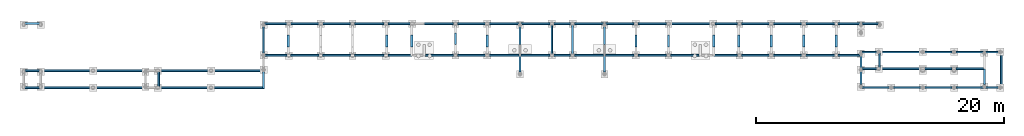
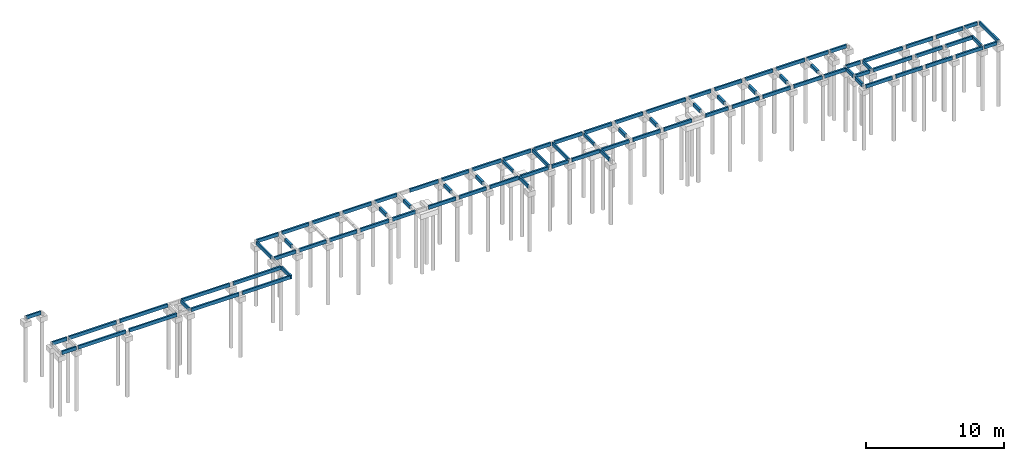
# One storey, part 4 of 6: 90 beams.
"""IFC4 building model written with IfcOpenShell, lengths in centimetres."""

from ifc_helpers import new_model, si_unit, derived_unit, frame, origin_with_axes, origin_2d_with_axis, place, context, project, spatial, rectangle, extrude, material, element, save


model = new_model("IFC4")

# Units and contexts
model_context = context("Model", 3, precision=1e-05, world=origin_with_axes(), identifier="Body")
ifc_project = project(units=[si_unit("LENGTHUNIT", "METRE", prefix="CENTI"), si_unit("VOLUMEUNIT", "CUBIC_METRE"), si_unit("AREAUNIT", "SQUARE_METRE"), si_unit("POWERUNIT", "WATT"), si_unit("LUMINOUSFLUXUNIT", "LUMEN"), si_unit("ELECTRICCURRENTUNIT", "AMPERE"), si_unit("PRESSUREUNIT", "PASCAL", prefix="KILO"), si_unit("MASSUNIT", "GRAM", prefix="KILO"), si_unit("PLANEANGLEUNIT", "RADIAN"), derived_unit("VOLUMETRICFLOWRATEUNIT", [(si_unit("LENGTHUNIT", "METRE"), 3), (si_unit("TIMEUNIT", "SECOND"), -1)])], contexts=[model_context])

# Site, building, storey
site_placement = place(None, origin_with_axes())
site = spatial("IfcSite", under=ifc_project, at=site_placement)
building_placement = place(site_placement, frame((0.0, 0.0, -170.0)))
building = spatial("IfcBuilding", under=site, at=building_placement)
storey_placement = place(building_placement, origin_with_axes())
storey = spatial("IfcBuildingStorey", under=building, at=storey_placement, Name="Baldrame", CompositionType="ELEMENT", Elevation=-170.0)

# Beams
ifc_material = material(Name="Concreto")
beam_1_placement = place(storey_placement, frame((-1856.0, 386.5, 0.0), z_axis=(0.0, 0.0, 1.0), x_axis=(1.0, 0.0, 0.0)))
element("IfcBeam", 1, at=beam_1_placement, inside=storey, material=ifc_material, Name="V1", context=model_context, shape_type="SolidModel", body=[
    extrude(rectangle(XDim=14.0, YDim=30.0, at=origin_2d_with_axis()), frame((-61.5, 0.0, -15.0), z_axis=(1.0, 0.0, 0.0), x_axis=(0.0, -1.0, 0.0)), (0.0, 0.0, 1.0), 123.0),
])
beam_2_placement = place(storey_placement, frame((4887.62, 157.5, 0.0), z_axis=(0.0, 0.0, 1.0), x_axis=(1.0, 0.0, 0.0)))
element("IfcBeam", 2, at=beam_2_placement, inside=storey, material=ifc_material, Name="V10", context=model_context, shape_type="SolidModel", body=[
    extrude(rectangle(XDim=14.0, YDim=30.0, at=origin_2d_with_axis()), frame((-60.5, 0.0, -15.0), z_axis=(1.0, 0.0, 0.0), x_axis=(0.0, 1.0, 0.0)), (0.0, 0.0, 1.0), 121.0),
])
beam_3_placement = place(storey_placement, frame((5696.87, 157.5, 0.0), z_axis=(0.0, 0.0, 1.0), x_axis=(1.0, 0.0, 0.0)))
element("IfcBeam", 3, at=beam_3_placement, inside=storey, material=ifc_material, Name="V11", context=model_context, shape_type="SolidModel", body=[
    extrude(rectangle(XDim=14.0, YDim=30.0, at=origin_2d_with_axis()), frame((-111.25, 0.0, -15.0), z_axis=(1.0, 0.0, 0.0), x_axis=(0.0, 1.0, 0.0)), (0.0, 0.0, 1.0), 222.5),
])
beam_4_placement = place(storey_placement, frame((5140.62, 157.5, 0.0), z_axis=(0.0, 0.0, 1.0), x_axis=(1.0, 0.0, 0.0)))
element("IfcBeam", 4, at=beam_4_placement, inside=storey, material=ifc_material, Name="V11", context=model_context, shape_type="SolidModel", body=[
    extrude(rectangle(XDim=14.0, YDim=30.0, at=origin_2d_with_axis()), frame((-162.5, 0.0, -15.0), z_axis=(1.0, 0.0, 0.0), x_axis=(0.0, 1.0, 0.0)), (0.0, 0.0, 1.0), 325.0),
])
beam_5_placement = place(storey_placement, frame((5444.37, 157.5, 0.0), z_axis=(0.0, 0.0, 1.0), x_axis=(1.0, 0.0, 0.0)))
element("IfcBeam", 5, at=beam_5_placement, inside=storey, material=ifc_material, Name="V11", context=model_context, shape_type="SolidModel", body=[
    extrude(rectangle(XDim=14.0, YDim=30.0, at=origin_2d_with_axis()), frame((-111.25, 0.0, -15.0), z_axis=(1.0, 0.0, 0.0), x_axis=(0.0, 1.0, 0.0)), (0.0, 0.0, 1.0), 222.5),
])
beam_6_placement = place(storey_placement, frame((5875.12, 157.5, 0.0), z_axis=(0.0, 0.0, 1.0), x_axis=(1.0, 0.0, 0.0)))
element("IfcBeam", 6, at=beam_6_placement, inside=storey, material=ifc_material, Name="V11", context=model_context, shape_type="SolidModel", body=[
    extrude(rectangle(XDim=14.0, YDim=30.0, at=origin_2d_with_axis()), frame((-53.0, 0.0, -15.0), z_axis=(1.0, 0.0, 0.0), x_axis=(0.0, 1.0, 0.0)), (0.0, 0.0, 1.0), 106.0),
])
beam_7_placement = place(storey_placement, frame((-199.75, 7.0, 0.0), z_axis=(0.0, 0.0, 1.0), x_axis=(1.0, 0.0, 0.0)))
element("IfcBeam", 7, at=beam_7_placement, inside=storey, material=ifc_material, Name="V12", context=model_context, shape_type="SolidModel", body=[
    extrude(rectangle(XDim=14.0, YDim=30.0, at=origin_2d_with_axis()), frame((-200.25, 0.0, -15.0), z_axis=(1.0, 0.0, 0.0), x_axis=(0.0, -1.0, 0.0)), (0.0, 0.0, 1.0), 400.5),
])
beam_8_placement = place(storey_placement, frame((-1150.5, 7.0, 0.0), z_axis=(0.0, 0.0, 1.0), x_axis=(1.0, 0.0, 0.0)))
element("IfcBeam", 8, at=beam_8_placement, inside=storey, material=ifc_material, Name="V12", context=model_context, shape_type="SolidModel", body=[
    extrude(rectangle(XDim=14.0, YDim=30.0, at=origin_2d_with_axis()), frame((-200.0, 0.0, -15.0), z_axis=(1.0, 0.0, 0.0), x_axis=(0.0, -1.0, 0.0)), (0.0, 0.0, 1.0), 400.0),
])
beam_9_placement = place(storey_placement, frame((-1856.0, 7.0, 0.0), z_axis=(0.0, 0.0, 1.0), x_axis=(1.0, 0.0, 0.0)))
element("IfcBeam", 9, at=beam_9_placement, inside=storey, material=ifc_material, Name="V12", context=model_context, shape_type="SolidModel", body=[
    extrude(rectangle(XDim=14.0, YDim=30.0, at=origin_2d_with_axis()), frame((-61.5, 0.0, -15.0), z_axis=(1.0, 0.0, 0.0), x_axis=(0.0, -1.0, 0.0)), (0.0, 0.0, 1.0), 123.0),
])
beam_10_placement = place(storey_placement, frame((-630.25, 7.0, 0.0), z_axis=(0.0, 0.0, 1.0), x_axis=(1.0, 0.0, 0.0)))
element("IfcBeam", 10, at=beam_10_placement, inside=storey, material=ifc_material, Name="V12", context=model_context, shape_type="SolidModel", body=[
    extrude(rectangle(XDim=14.0, YDim=30.0, at=origin_2d_with_axis()), frame((-200.25, 0.0, -15.0), z_axis=(1.0, 0.0, 0.0), x_axis=(0.0, -1.0, 0.0)), (0.0, 0.0, 1.0), 400.5),
])
beam_11_placement = place(storey_placement, frame((-1580.5, 7.0, 0.0), z_axis=(0.0, 0.0, 1.0), x_axis=(1.0, 0.0, 0.0)))
element("IfcBeam", 11, at=beam_11_placement, inside=storey, material=ifc_material, Name="V12", context=model_context, shape_type="SolidModel", body=[
    extrude(rectangle(XDim=14.0, YDim=30.0, at=origin_2d_with_axis()), frame((-200.0, 0.0, -15.0), z_axis=(1.0, 0.0, 0.0), x_axis=(0.0, -1.0, 0.0)), (0.0, 0.0, 1.0), 400.0),
])
beam_12_placement = place(storey_placement, frame((5700.37, 21.5, 0.0), z_axis=(0.0, 0.0, 1.0), x_axis=(1.0, 0.0, 0.0)))
element("IfcBeam", 12, at=beam_12_placement, inside=storey, material=ifc_material, Name="V13", context=model_context, shape_type="SolidModel", body=[
    extrude(rectangle(XDim=14.0, YDim=30.0, at=origin_2d_with_axis()), frame((-114.75, 0.0, -15.0), z_axis=(1.0, 0.0, 0.0), x_axis=(0.0, 1.0, 0.0)), (0.0, 0.0, 1.0), 229.5),
])
beam_13_placement = place(storey_placement, frame((5444.37, 21.5, 0.0), z_axis=(0.0, 0.0, 1.0), x_axis=(1.0, 0.0, 0.0)))
element("IfcBeam", 13, at=beam_13_placement, inside=storey, material=ifc_material, Name="V13", context=model_context, shape_type="SolidModel", body=[
    extrude(rectangle(XDim=14.0, YDim=30.0, at=origin_2d_with_axis()), frame((-111.25, 0.0, -15.0), z_axis=(1.0, 0.0, 0.0), x_axis=(0.0, 1.0, 0.0)), (0.0, 0.0, 1.0), 222.5),
])
beam_14_placement = place(storey_placement, frame((5140.62, 21.5, 0.0), z_axis=(0.0, 0.0, 1.0), x_axis=(1.0, 0.0, 0.0)))
element("IfcBeam", 14, at=beam_14_placement, inside=storey, material=ifc_material, Name="V13", context=model_context, shape_type="SolidModel", body=[
    extrude(rectangle(XDim=14.0, YDim=30.0, at=origin_2d_with_axis()), frame((-162.5, 0.0, -15.0), z_axis=(1.0, 0.0, 0.0), x_axis=(0.0, 1.0, 0.0)), (0.0, 0.0, 1.0), 325.0),
])
beam_15_placement = place(storey_placement, frame((4887.62, 21.5, 0.0), z_axis=(0.0, 0.0, 1.0), x_axis=(1.0, 0.0, 0.0)))
element("IfcBeam", 15, at=beam_15_placement, inside=storey, material=ifc_material, Name="V13", context=model_context, shape_type="SolidModel", body=[
    extrude(rectangle(XDim=14.0, YDim=30.0, at=origin_2d_with_axis()), frame((-60.5, 0.0, -15.0), z_axis=(1.0, 0.0, 0.0), x_axis=(0.0, 1.0, 0.0)), (0.0, 0.0, 1.0), 121.0),
])
beam_16_placement = place(storey_placement, frame((-1580.625, -130.0, 0.0), z_axis=(0.0, 0.0, 1.0), x_axis=(1.0, 0.0, 0.0)))
element("IfcBeam", 16, at=beam_16_placement, inside=storey, material=ifc_material, Name="V14", context=model_context, shape_type="SolidModel", body=[
    extrude(rectangle(XDim=14.0, YDim=30.0, at=origin_2d_with_axis()), frame((-199.875, 0.0, -15.0), z_axis=(1.0, 0.0, 0.0), x_axis=(0.0, -1.0, 0.0)), (0.0, 0.0, 1.0), 399.75),
])
beam_17_placement = place(storey_placement, frame((-1856.0, -130.0, 0.0), z_axis=(0.0, 0.0, 1.0), x_axis=(1.0, 0.0, 0.0)))
element("IfcBeam", 17, at=beam_17_placement, inside=storey, material=ifc_material, Name="V14", context=model_context, shape_type="SolidModel", body=[
    extrude(rectangle(XDim=14.0, YDim=30.0, at=origin_2d_with_axis()), frame((-61.5, 0.0, -15.0), z_axis=(1.0, 0.0, 0.0), x_axis=(0.0, -1.0, 0.0)), (0.0, 0.0, 1.0), 123.0),
])
beam_18_placement = place(storey_placement, frame((-630.975, -130.0, 0.0), z_axis=(0.0, 0.0, 1.0), x_axis=(1.0, 0.0, 0.0)))
element("IfcBeam", 18, at=beam_18_placement, inside=storey, material=ifc_material, Name="V14", context=model_context, shape_type="SolidModel", body=[
    extrude(rectangle(XDim=14.0, YDim=30.0, at=origin_2d_with_axis()), frame((-199.525, 0.0, -15.0), z_axis=(1.0, 0.0, 0.0), x_axis=(0.0, -1.0, 0.0)), (0.0, 0.0, 1.0), 399.05),
])
beam_19_placement = place(storey_placement, frame((-1150.625, -130.0, 0.0), z_axis=(0.0, 0.0, 1.0), x_axis=(1.0, 0.0, 0.0)))
element("IfcBeam", 19, at=beam_19_placement, inside=storey, material=ifc_material, Name="V14", context=model_context, shape_type="SolidModel", body=[
    extrude(rectangle(XDim=14.0, YDim=30.0, at=origin_2d_with_axis()), frame((-200.125, 0.0, -15.0), z_axis=(1.0, 0.0, 0.0), x_axis=(0.0, -1.0, 0.0)), (0.0, 0.0, 1.0), 400.25),
])
beam_20_placement = place(storey_placement, frame((-200.475, -130.0, 0.0), z_axis=(0.0, 0.0, 1.0), x_axis=(1.0, 0.0, 0.0)))
element("IfcBeam", 20, at=beam_20_placement, inside=storey, material=ifc_material, Name="V14", context=model_context, shape_type="SolidModel", body=[
    extrude(rectangle(XDim=14.0, YDim=30.0, at=origin_2d_with_axis()), frame((-200.975, 0.0, -15.0), z_axis=(1.0, 0.0, 0.0), x_axis=(0.0, -1.0, 0.0)), (0.0, 0.0, 1.0), 401.95),
])
for number, where, z_axis, x_axis, name in (
    (21, (5444.37, -129.5, 0.0), (0.0, 0.0, 1.0), (1.0, 0.0, 0.0), "V15"),
    (22, (5696.87, -129.5, 0.0), (0.0, 0.0, 1.0), (1.0, 0.0, 0.0), "V15"),
):
    element("IfcBeam", number, at=place(storey_placement, frame(where, z_axis=z_axis, x_axis=x_axis)), inside=storey, material=ifc_material, Name=name, context=model_context, shape_type="SolidModel", body=[
        extrude(rectangle(XDim=14.0, YDim=30.0, at=origin_2d_with_axis()), frame((-111.25, 0.0, -15.0), z_axis=(1.0, 0.0, 0.0), x_axis=(0.0, 1.0, 0.0)), (0.0, 0.0, 1.0), 222.5),
    ])
for number, where, z_axis, x_axis, name in (
    (23, (5191.62, -129.5, 0.0), (0.0, 0.0, 1.0), (1.0, 0.0, 0.0), "V15"),
    (24, (4938.62, -129.5, 0.0), (0.0, 0.0, 1.0), (1.0, 0.0, 0.0), "V15"),
):
    element("IfcBeam", number, at=place(storey_placement, frame(where, z_axis=z_axis, x_axis=x_axis)), inside=storey, material=ifc_material, Name=name, context=model_context, shape_type="SolidModel", body=[
        extrude(rectangle(XDim=14.0, YDim=30.0, at=origin_2d_with_axis()), frame((-111.5, 0.0, -15.0), z_axis=(1.0, 0.0, 0.0), x_axis=(0.0, 1.0, 0.0)), (0.0, 0.0, 1.0), 223.0),
    ])
beam_21_placement = place(storey_placement, frame((5875.12, -129.5, 0.0), z_axis=(0.0, 0.0, 1.0), x_axis=(1.0, 0.0, 0.0)))
element("IfcBeam", 25, at=beam_21_placement, inside=storey, material=ifc_material, Name="V15", context=model_context, shape_type="SolidModel", body=[
    extrude(rectangle(XDim=14.0, YDim=30.0, at=origin_2d_with_axis()), frame((-53.0, 0.0, -15.0), z_axis=(1.0, 0.0, 0.0), x_axis=(0.0, 1.0, 0.0)), (0.0, 0.0, 1.0), 106.0),
])
beam_22_placement = place(storey_placement, frame((-837.5, -61.5, 0.0), z_axis=(0.0, 0.0, 1.0), x_axis=(1.0, 0.0, 0.0)))
element("IfcBeam", 26, at=beam_22_placement, inside=storey, material=ifc_material, Name="V19", context=model_context, shape_type="SolidModel", body=[
    extrude(rectangle(XDim=14.0, YDim=30.0, at=origin_2d_with_axis()), frame((0.0, -61.5, -15.0), z_axis=(0.0, 1.0, 0.0), x_axis=(-1.0, 0.0, 0.0)), (0.0, 0.0, 1.0), 123.0),
])
beam_23_placement = place(storey_placement, frame((105.5, 385.0, 0.0), z_axis=(0.0, 0.0, 1.0), x_axis=(1.0, 0.0, 0.0)))
element("IfcBeam", 27, at=beam_23_placement, inside=storey, material=ifc_material, Name="V2", context=model_context, shape_type="SolidModel", body=[
    extrude(rectangle(XDim=14.0, YDim=30.0, at=origin_2d_with_axis()), frame((-91.0, 0.0, -15.0), z_axis=(1.0, 0.0, 0.0), x_axis=(0.0, 1.0, 0.0)), (0.0, 0.0, 1.0), 182.0),
])
beam_24_placement = place(storey_placement, frame((1100.03, 385.0, 0.0), z_axis=(0.0, 0.0, 1.0), x_axis=(1.0, 0.0, 0.0)))
element("IfcBeam", 28, at=beam_24_placement, inside=storey, material=ifc_material, Name="V2", context=model_context, shape_type="SolidModel", body=[
    extrude(rectangle(XDim=14.0, YDim=30.0, at=origin_2d_with_axis()), frame((-91.5, 0.0, -15.0), z_axis=(1.0, 0.0, 0.0), x_axis=(0.0, 1.0, 0.0)), (0.0, 0.0, 1.0), 183.0),
])
beam_25_placement = place(storey_placement, frame((858.835, 385.0, 0.0), z_axis=(0.0, 0.0, 1.0), x_axis=(1.0, 0.0, 0.0)))
element("IfcBeam", 29, at=beam_25_placement, inside=storey, material=ifc_material, Name="V2", context=model_context, shape_type="SolidModel", body=[
    extrude(rectangle(XDim=14.0, YDim=30.0, at=origin_2d_with_axis()), frame((-119.695, 0.0, -15.0), z_axis=(1.0, 0.0, 0.0), x_axis=(0.0, 1.0, 0.0)), (0.0, 0.0, 1.0), 239.39),
])
for number, where, z_axis, x_axis, name in (
    (30, (595.98, 385.0, 0.0), (0.0, 0.0, 1.0), (1.0, 0.0, 0.0), "V2"),
    (31, (339.66, 385.0, 0.0), (0.0, 0.0, 1.0), (1.0, 0.0, 0.0), "V2"),
):
    element("IfcBeam", number, at=place(storey_placement, frame(where, z_axis=z_axis, x_axis=x_axis)), inside=storey, material=ifc_material, Name=name, context=model_context, shape_type="SolidModel", body=[
        extrude(rectangle(XDim=14.0, YDim=30.0, at=origin_2d_with_axis()), frame((-113.16, 0.0, -15.0), z_axis=(1.0, 0.0, 0.0), x_axis=(0.0, 1.0, 0.0)), (0.0, 0.0, 1.0), 226.32),
    ])
beam_26_placement = place(storey_placement, frame((7.5, -68.5, 0.0), z_axis=(0.0, 0.0, 1.0), x_axis=(1.0, 0.0, 0.0)))
element("IfcBeam", 32, at=beam_26_placement, inside=storey, material=ifc_material, Name="V20", context=model_context, shape_type="SolidModel", body=[
    extrude(rectangle(XDim=14.0, YDim=30.0, at=origin_2d_with_axis()), frame((0.0, -68.5, -15.0), z_axis=(0.0, 1.0, 0.0), x_axis=(1.0, 0.0, 0.0)), (0.0, 0.0, 1.0), 137.0),
])
beam_27_placement = place(storey_placement, frame((7.5, 254.0, 0.0), z_axis=(0.0, 0.0, 1.0), x_axis=(1.0, 0.0, 0.0)))
element("IfcBeam", 33, at=beam_27_placement, inside=storey, material=ifc_material, Name="V20", context=model_context, shape_type="SolidModel", body=[
    extrude(rectangle(XDim=14.0, YDim=30.0, at=origin_2d_with_axis()), frame((0.0, -108.0, -15.0), z_axis=(0.0, 1.0, 0.0), x_axis=(-1.0, 0.0, 0.0)), (0.0, 0.0, 1.0), 216.0),
])
for number, where, z_axis, x_axis, name in (
    (34, (206.0, 245.5, 0.0), (0.0, 0.0, 1.0), (1.0, 0.0, 0.0), "V21"),
    (35, (999.03, 245.5, 0.0), (0.0, 0.0, 1.0), (1.0, 0.0, 0.0), "V24"),
    (36, (1201.03, 245.5, 0.0), (0.0, 0.0, 1.0), (1.0, 0.0, 0.0), "V25"),
):
    element("IfcBeam", number, at=place(storey_placement, frame(where, z_axis=z_axis, x_axis=x_axis)), inside=storey, material=ifc_material, Name=name, context=model_context, shape_type="SolidModel", body=[
        extrude(rectangle(XDim=19.0, YDim=30.0, at=origin_2d_with_axis()), frame((0.0, -47.5, -15.0), z_axis=(0.0, 1.0, 0.0), x_axis=(1.0, 0.0, 0.0)), (0.0, 0.0, 1.0), 95.0),
    ])
beam_28_placement = place(storey_placement, frame((1553.92, 264.5, 0.0), z_axis=(0.0, 0.0, 1.0), x_axis=(1.0, 0.0, 0.0)))
element("IfcBeam", 37, at=beam_28_placement, inside=storey, material=ifc_material, Name="V26", context=model_context, shape_type="SolidModel", body=[
    extrude(rectangle(XDim=19.0, YDim=30.0, at=origin_2d_with_axis()), frame((0.0, 47.5, -15.0), z_axis=(0.0, -1.0, 0.0), x_axis=(1.0, 0.0, 0.0)), (0.0, 0.0, 1.0), 95.0),
])
beam_29_placement = place(storey_placement, frame((1810.24, 245.5, 0.0), z_axis=(0.0, 0.0, 1.0), x_axis=(1.0, 0.0, 0.0)))
element("IfcBeam", 38, at=beam_29_placement, inside=storey, material=ifc_material, Name="V27", context=model_context, shape_type="SolidModel", body=[
    extrude(rectangle(XDim=19.0, YDim=30.0, at=origin_2d_with_axis()), frame((0.0, -47.5, -15.0), z_axis=(0.0, 1.0, 0.0), x_axis=(1.0, 0.0, 0.0)), (0.0, 0.0, 1.0), 95.0),
])
beam_30_placement = place(storey_placement, frame((2073.56, 289.5, 0.0), z_axis=(0.0, 0.0, 1.0), x_axis=(1.0, 0.0, 0.0)))
element("IfcBeam", 39, at=beam_30_placement, inside=storey, material=ifc_material, Name="V28", context=model_context, shape_type="SolidModel", body=[
    extrude(rectangle(XDim=14.0, YDim=30.0, at=origin_2d_with_axis()), frame((0.0, -72.5, -15.0), z_axis=(0.0, 1.0, 0.0), x_axis=(1.0, 0.0, 0.0)), (0.0, 0.0, 1.0), 145.0),
])
beam_31_placement = place(storey_placement, frame((2073.56, 59.25, 0.0), z_axis=(0.0, 0.0, 1.0), x_axis=(1.0, 0.0, 0.0)))
element("IfcBeam", 40, at=beam_31_placement, inside=storey, material=ifc_material, Name="V28", context=model_context, shape_type="SolidModel", body=[
    extrude(rectangle(XDim=14.0, YDim=30.0, at=origin_2d_with_axis()), frame((0.0, -64.75, -15.0), z_axis=(0.0, 1.0, 0.0), x_axis=(1.0, 0.0, 0.0)), (0.0, 0.0, 1.0), 129.5),
])
beam_32_placement = place(storey_placement, frame((2330.56, 258.0, 0.0), z_axis=(0.0, 0.0, 1.0), x_axis=(1.0, 0.0, 0.0)))
element("IfcBeam", 41, at=beam_32_placement, inside=storey, material=ifc_material, Name="V29", context=model_context, shape_type="SolidModel", body=[
    extrude(rectangle(XDim=14.0, YDim=30.0, at=origin_2d_with_axis()), frame((0.0, -120.0, -15.0), z_axis=(0.0, 1.0, 0.0), x_axis=(1.0, 0.0, 0.0)), (0.0, 0.0, 1.0), 240.0),
])
beam_33_placement = place(storey_placement, frame((2630.06, 385.0, 0.0), z_axis=(0.0, 0.0, 1.0), x_axis=(1.0, 0.0, 0.0)))
element("IfcBeam", 42, at=beam_33_placement, inside=storey, material=ifc_material, Name="V3", context=model_context, shape_type="SolidModel", body=[
    extrude(rectangle(XDim=14.0, YDim=30.0, at=origin_2d_with_axis()), frame((-117.5, 0.0, -15.0), z_axis=(1.0, 0.0, 0.0), x_axis=(0.0, 1.0, 0.0)), (0.0, 0.0, 1.0), 235.0),
])
beam_34_placement = place(storey_placement, frame((1419.74, 385.0, 0.0), z_axis=(0.0, 0.0, 1.0), x_axis=(1.0, 0.0, 0.0)))
element("IfcBeam", 43, at=beam_34_placement, inside=storey, material=ifc_material, Name="V3", context=model_context, shape_type="SolidModel", body=[
    extrude(rectangle(XDim=14.0, YDim=30.0, at=origin_2d_with_axis()), frame((-119.18, 0.0, -15.0), z_axis=(1.0, 0.0, 0.0), x_axis=(0.0, 1.0, 0.0)), (0.0, 0.0, 1.0), 238.36),
])
beam_35_placement = place(storey_placement, frame((2877.285, 385.0, 0.0), z_axis=(0.0, 0.0, 1.0), x_axis=(1.0, 0.0, 0.0)))
element("IfcBeam", 44, at=beam_35_placement, inside=storey, material=ifc_material, Name="V3", context=model_context, shape_type="SolidModel", body=[
    extrude(rectangle(XDim=14.0, YDim=30.0, at=origin_2d_with_axis()), frame((-115.725, 0.0, -15.0), z_axis=(1.0, 0.0, 0.0), x_axis=(0.0, 1.0, 0.0)), (0.0, 0.0, 1.0), 231.45),
])
beam_36_placement = place(storey_placement, frame((1682.08, 385.0, 0.0), z_axis=(0.0, 0.0, 1.0), x_axis=(1.0, 0.0, 0.0)))
element("IfcBeam", 45, at=beam_36_placement, inside=storey, material=ifc_material, Name="V3", context=model_context, shape_type="SolidModel", body=[
    extrude(rectangle(XDim=14.0, YDim=30.0, at=origin_2d_with_axis()), frame((-113.16, 0.0, -15.0), z_axis=(1.0, 0.0, 0.0), x_axis=(0.0, 1.0, 0.0)), (0.0, 0.0, 1.0), 226.32),
])
beam_37_placement = place(storey_placement, frame((1945.9, 385.0, 0.0), z_axis=(0.0, 0.0, 1.0), x_axis=(1.0, 0.0, 0.0)))
element("IfcBeam", 46, at=beam_37_placement, inside=storey, material=ifc_material, Name="V3", context=model_context, shape_type="SolidModel", body=[
    extrude(rectangle(XDim=14.0, YDim=30.0, at=origin_2d_with_axis()), frame((-120.66, 0.0, -15.0), z_axis=(1.0, 0.0, 0.0), x_axis=(0.0, 1.0, 0.0)), (0.0, 0.0, 1.0), 241.32),
])
beam_38_placement = place(storey_placement, frame((2198.06, 385.0, 0.0), z_axis=(0.0, 0.0, 1.0), x_axis=(1.0, 0.0, 0.0)))
element("IfcBeam", 47, at=beam_38_placement, inside=storey, material=ifc_material, Name="V3", context=model_context, shape_type="SolidModel", body=[
    extrude(rectangle(XDim=14.0, YDim=30.0, at=origin_2d_with_axis()), frame((-117.5, 0.0, -15.0), z_axis=(1.0, 0.0, 0.0), x_axis=(0.0, 1.0, 0.0)), (0.0, 0.0, 1.0), 235.0),
])
beam_39_placement = place(storey_placement, frame((2414.06, 385.0, 0.0), z_axis=(0.0, 0.0, 1.0), x_axis=(1.0, 0.0, 0.0)))
element("IfcBeam", 48, at=beam_39_placement, inside=storey, material=ifc_material, Name="V3", context=model_context, shape_type="SolidModel", body=[
    extrude(rectangle(XDim=14.0, YDim=30.0, at=origin_2d_with_axis()), frame((-68.5, 0.0, -15.0), z_axis=(1.0, 0.0, 0.0), x_axis=(0.0, 1.0, 0.0)), (0.0, 0.0, 1.0), 137.0),
])
beam_40_placement = place(storey_placement, frame((3138.98, 385.0, 0.0), z_axis=(0.0, 0.0, 1.0), x_axis=(1.0, 0.0, 0.0)))
element("IfcBeam", 49, at=beam_40_placement, inside=storey, material=ifc_material, Name="V3", context=model_context, shape_type="SolidModel", body=[
    extrude(rectangle(XDim=14.0, YDim=30.0, at=origin_2d_with_axis()), frame((-115.97, 0.0, -15.0), z_axis=(1.0, 0.0, 0.0), x_axis=(0.0, 1.0, 0.0)), (0.0, 0.0, 1.0), 231.94),
])
beam_41_placement = place(storey_placement, frame((2497.56, 258.0, 0.0), z_axis=(0.0, 0.0, 1.0), x_axis=(1.0, 0.0, 0.0)))
element("IfcBeam", 50, at=beam_41_placement, inside=storey, material=ifc_material, Name="V30", context=model_context, shape_type="SolidModel", body=[
    extrude(rectangle(XDim=14.0, YDim=30.0, at=origin_2d_with_axis()), frame((0.0, -120.0, -15.0), z_axis=(0.0, 1.0, 0.0), x_axis=(1.0, 0.0, 0.0)), (0.0, 0.0, 1.0), 240.0),
])
beam_42_placement = place(storey_placement, frame((2754.56, 59.25, 0.0), z_axis=(0.0, 0.0, 1.0), x_axis=(1.0, 0.0, 0.0)))
element("IfcBeam", 51, at=beam_42_placement, inside=storey, material=ifc_material, Name="V31", context=model_context, shape_type="SolidModel", body=[
    extrude(rectangle(XDim=14.0, YDim=30.0, at=origin_2d_with_axis()), frame((0.0, -64.75, -15.0), z_axis=(0.0, 1.0, 0.0), x_axis=(1.0, 0.0, 0.0)), (0.0, 0.0, 1.0), 129.5),
])
beam_43_placement = place(storey_placement, frame((2754.56, 289.5, 0.0), z_axis=(0.0, 0.0, 1.0), x_axis=(1.0, 0.0, 0.0)))
element("IfcBeam", 52, at=beam_43_placement, inside=storey, material=ifc_material, Name="V31", context=model_context, shape_type="SolidModel", body=[
    extrude(rectangle(XDim=14.0, YDim=30.0, at=origin_2d_with_axis()), frame((0.0, -72.5, -15.0), z_axis=(0.0, 1.0, 0.0), x_axis=(1.0, 0.0, 0.0)), (0.0, 0.0, 1.0), 145.0),
])
for number, where, z_axis, x_axis, name in (
    (53, (3008.01, 245.5, 0.0), (0.0, 0.0, 1.0), (1.0, 0.0, 0.0), "V32"),
    (54, (3269.95, 245.5, 0.0), (0.0, 0.0, 1.0), (1.0, 0.0, 0.0), "V33"),
    (55, (3634.59, 245.5, 0.0), (0.0, 0.0, 1.0), (1.0, 0.0, 0.0), "V34"),
    (56, (3836.59, 245.5, 0.0), (0.0, 0.0, 1.0), (1.0, 0.0, 0.0), "V35"),
    (57, (4098.54, 245.5, 0.0), (0.0, 0.0, 1.0), (1.0, 0.0, 0.0), "V36"),
    (58, (4360.17, 245.5, 0.0), (0.0, 0.0, 1.0), (1.0, 0.0, 0.0), "V37"),
    (59, (4622.12, 245.5, 0.0), (0.0, 0.0, 1.0), (1.0, 0.0, 0.0), "V38"),
):
    element("IfcBeam", number, at=place(storey_placement, frame(where, z_axis=z_axis, x_axis=x_axis)), inside=storey, material=ifc_material, Name=name, context=model_context, shape_type="SolidModel", body=[
        extrude(rectangle(XDim=19.0, YDim=30.0, at=origin_2d_with_axis()), frame((0.0, -47.5, -15.0), z_axis=(0.0, 1.0, 0.0), x_axis=(1.0, 0.0, 0.0)), (0.0, 0.0, 1.0), 95.0),
    ])
beam_44_placement = place(storey_placement, frame((4820.12, -53.5, 0.0), z_axis=(0.0, 0.0, 1.0), x_axis=(1.0, 0.0, 0.0)))
element("IfcBeam", 60, at=beam_44_placement, inside=storey, material=ifc_material, Name="V39", context=model_context, shape_type="SolidModel", body=[
    extrude(rectangle(XDim=14.0, YDim=30.0, at=origin_2d_with_axis()), frame((0.0, -53.0, -15.0), z_axis=(0.0, 1.0, 0.0), x_axis=(1.0, 0.0, 0.0)), (0.0, 0.0, 1.0), 106.0),
])
beam_45_placement = place(storey_placement, frame((4820.12, 76.25, 0.0), z_axis=(0.0, 0.0, 1.0), x_axis=(1.0, 0.0, 0.0)))
element("IfcBeam", 61, at=beam_45_placement, inside=storey, material=ifc_material, Name="V39", context=model_context, shape_type="SolidModel", body=[
    extrude(rectangle(XDim=14.0, YDim=30.0, at=origin_2d_with_axis()), frame((0.0, -47.75, -15.0), z_axis=(0.0, 1.0, 0.0), x_axis=(1.0, 0.0, 0.0)), (0.0, 0.0, 1.0), 95.5),
])
beam_46_placement = place(storey_placement, frame((4229.355, 385.0, 0.0), z_axis=(0.0, 0.0, 1.0), x_axis=(1.0, 0.0, 0.0)))
element("IfcBeam", 62, at=beam_46_placement, inside=storey, material=ifc_material, Name="V4", context=model_context, shape_type="SolidModel", body=[
    extrude(rectangle(XDim=14.0, YDim=30.0, at=origin_2d_with_axis()), frame((-115.815, 0.0, -15.0), z_axis=(1.0, 0.0, 0.0), x_axis=(0.0, 1.0, 0.0)), (0.0, 0.0, 1.0), 231.63),
])
beam_47_placement = place(storey_placement, frame((4493.895, 385.0, 0.0), z_axis=(0.0, 0.0, 1.0), x_axis=(1.0, 0.0, 0.0)))
element("IfcBeam", 63, at=beam_47_placement, inside=storey, material=ifc_material, Name="V4", context=model_context, shape_type="SolidModel", body=[
    extrude(rectangle(XDim=14.0, YDim=30.0, at=origin_2d_with_axis()), frame((-118.725, 0.0, -15.0), z_axis=(1.0, 0.0, 0.0), x_axis=(0.0, 1.0, 0.0)), (0.0, 0.0, 1.0), 237.45),
])
beam_48_placement = place(storey_placement, frame((3449.52, 385.0, 0.0), z_axis=(0.0, 0.0, 1.0), x_axis=(1.0, 0.0, 0.0)))
element("IfcBeam", 64, at=beam_48_placement, inside=storey, material=ifc_material, Name="V4", context=model_context, shape_type="SolidModel", body=[
    extrude(rectangle(XDim=14.0, YDim=30.0, at=origin_2d_with_axis()), frame((-164.57, 0.0, -15.0), z_axis=(1.0, 0.0, 0.0), x_axis=(0.0, 1.0, 0.0)), (0.0, 0.0, 1.0), 329.14),
])
beam_49_placement = place(storey_placement, frame((3735.59, 385.0, 0.0), z_axis=(0.0, 0.0, 1.0), x_axis=(1.0, 0.0, 0.0)))
element("IfcBeam", 65, at=beam_49_placement, inside=storey, material=ifc_material, Name="V4", context=model_context, shape_type="SolidModel", body=[
    extrude(rectangle(XDim=14.0, YDim=30.0, at=origin_2d_with_axis()), frame((-91.5, 0.0, -15.0), z_axis=(1.0, 0.0, 0.0), x_axis=(0.0, 1.0, 0.0)), (0.0, 0.0, 1.0), 183.0),
])
beam_50_placement = place(storey_placement, frame((3970.315, 385.0, 0.0), z_axis=(0.0, 0.0, 1.0), x_axis=(1.0, 0.0, 0.0)))
element("IfcBeam", 66, at=beam_50_placement, inside=storey, material=ifc_material, Name="V4", context=model_context, shape_type="SolidModel", body=[
    extrude(rectangle(XDim=14.0, YDim=30.0, at=origin_2d_with_axis()), frame((-113.225, 0.0, -15.0), z_axis=(1.0, 0.0, 0.0), x_axis=(0.0, 1.0, 0.0)), (0.0, 0.0, 1.0), 226.45),
])
beam_51_placement = place(storey_placement, frame((4722.37, 385.0, 0.0), z_axis=(0.0, 0.0, 1.0), x_axis=(1.0, 0.0, 0.0)))
element("IfcBeam", 67, at=beam_51_placement, inside=storey, material=ifc_material, Name="V4", context=model_context, shape_type="SolidModel", body=[
    extrude(rectangle(XDim=14.0, YDim=30.0, at=origin_2d_with_axis()), frame((-90.75, 0.0, -15.0), z_axis=(1.0, 0.0, 0.0), x_axis=(0.0, 1.0, 0.0)), (0.0, 0.0, 1.0), 181.5),
])
beam_52_placement = place(storey_placement, frame((4971.12, 89.5, 0.0), z_axis=(0.0, 0.0, 1.0), x_axis=(1.0, 0.0, 0.0)))
element("IfcBeam", 68, at=beam_52_placement, inside=storey, material=ifc_material, Name="V40", context=model_context, shape_type="SolidModel", body=[
    extrude(rectangle(XDim=14.0, YDim=30.0, at=origin_2d_with_axis()), frame((0.0, -61.0, -15.0), z_axis=(0.0, 1.0, 0.0), x_axis=(1.0, 0.0, 0.0)), (0.0, 0.0, 1.0), 122.0),
])
beam_53_placement = place(storey_placement, frame((5815.12, -42.5, 0.0), z_axis=(0.0, 0.0, 1.0), x_axis=(1.0, 0.0, 0.0)))
element("IfcBeam", 69, at=beam_53_placement, inside=storey, material=ifc_material, Name="V41", context=model_context, shape_type="SolidModel", body=[
    extrude(rectangle(XDim=14.0, YDim=30.0, at=origin_2d_with_axis()), frame((0.0, -64.0, -15.0), z_axis=(0.0, 1.0, 0.0), x_axis=(1.0, 0.0, 0.0)), (0.0, 0.0, 1.0), 128.0),
])
beam_54_placement = place(storey_placement, frame((5951.12, 14.0, 0.0), z_axis=(0.0, 0.0, 1.0), x_axis=(1.0, 0.0, 0.0)))
element("IfcBeam", 70, at=beam_54_placement, inside=storey, material=ifc_material, Name="V42", context=model_context, shape_type="SolidModel", body=[
    extrude(rectangle(XDim=14.0, YDim=30.0, at=origin_2d_with_axis()), frame((0.0, -136.5, -15.0), z_axis=(0.0, 1.0, 0.0), x_axis=(1.0, 0.0, 0.0)), (0.0, 0.0, 1.0), 273.0),
])
beam_55_placement = place(storey_placement, frame((4895.62, 385.0, 0.0), z_axis=(0.0, 0.0, 1.0), x_axis=(1.0, 0.0, 0.0)))
element("IfcBeam", 71, at=beam_55_placement, inside=storey, material=ifc_material, Name="V5", context=model_context, shape_type="SolidModel", body=[
    extrude(rectangle(XDim=14.0, YDim=30.0, at=origin_2d_with_axis()), frame((-68.5, 0.0, -15.0), z_axis=(1.0, 0.0, 0.0), x_axis=(0.0, 1.0, 0.0)), (0.0, 0.0, 1.0), 137.0),
])
beam_56_placement = place(storey_placement, frame((858.835, 131.0, 0.0), z_axis=(0.0, 0.0, 1.0), x_axis=(1.0, 0.0, 0.0)))
element("IfcBeam", 72, at=beam_56_placement, inside=storey, material=ifc_material, Name="V6", context=model_context, shape_type="SolidModel", body=[
    extrude(rectangle(XDim=14.0, YDim=30.0, at=origin_2d_with_axis()), frame((-119.695, 0.0, -15.0), z_axis=(1.0, 0.0, 0.0), x_axis=(0.0, 1.0, 0.0)), (0.0, 0.0, 1.0), 239.39),
])
beam_57_placement = place(storey_placement, frame((1104.78, 131.0, 0.0), z_axis=(0.0, 0.0, 1.0), x_axis=(1.0, 0.0, 0.0)))
element("IfcBeam", 73, at=beam_57_placement, inside=storey, material=ifc_material, Name="V6", context=model_context, shape_type="SolidModel", body=[
    extrude(rectangle(XDim=14.0, YDim=30.0, at=origin_2d_with_axis()), frame((-96.25, 0.0, -15.0), z_axis=(1.0, 0.0, 0.0), x_axis=(0.0, 1.0, 0.0)), (0.0, 0.0, 1.0), 192.5),
])
for number, where, z_axis, x_axis, name in (
    (74, (339.66, 131.0, 0.0), (0.0, 0.0, 1.0), (1.0, 0.0, 0.0), "V6"),
    (75, (595.98, 131.0, 0.0), (0.0, 0.0, 1.0), (1.0, 0.0, 0.0), "V6"),
):
    element("IfcBeam", number, at=place(storey_placement, frame(where, z_axis=z_axis, x_axis=x_axis)), inside=storey, material=ifc_material, Name=name, context=model_context, shape_type="SolidModel", body=[
        extrude(rectangle(XDim=14.0, YDim=30.0, at=origin_2d_with_axis()), frame((-113.16, 0.0, -15.0), z_axis=(1.0, 0.0, 0.0), x_axis=(0.0, 1.0, 0.0)), (0.0, 0.0, 1.0), 226.32),
    ])
beam_58_placement = place(storey_placement, frame((105.5, 131.0, 0.0), z_axis=(0.0, 0.0, 1.0), x_axis=(1.0, 0.0, 0.0)))
element("IfcBeam", 76, at=beam_58_placement, inside=storey, material=ifc_material, Name="V6", context=model_context, shape_type="SolidModel", body=[
    extrude(rectangle(XDim=14.0, YDim=30.0, at=origin_2d_with_axis()), frame((-91.0, 0.0, -15.0), z_axis=(1.0, 0.0, 0.0), x_axis=(0.0, 1.0, 0.0)), (0.0, 0.0, 1.0), 182.0),
])
beam_59_placement = place(storey_placement, frame((1945.9, 131.0, 0.0), z_axis=(0.0, 0.0, 1.0), x_axis=(1.0, 0.0, 0.0)))
element("IfcBeam", 77, at=beam_59_placement, inside=storey, material=ifc_material, Name="V7", context=model_context, shape_type="SolidModel", body=[
    extrude(rectangle(XDim=14.0, YDim=30.0, at=origin_2d_with_axis()), frame((-120.66, 0.0, -15.0), z_axis=(1.0, 0.0, 0.0), x_axis=(0.0, 1.0, 0.0)), (0.0, 0.0, 1.0), 241.32),
])
beam_60_placement = place(storey_placement, frame((1424.74, 131.0, 0.0), z_axis=(0.0, 0.0, 1.0), x_axis=(1.0, 0.0, 0.0)))
element("IfcBeam", 78, at=beam_60_placement, inside=storey, material=ifc_material, Name="V7", context=model_context, shape_type="SolidModel", body=[
    extrude(rectangle(XDim=14.0, YDim=30.0, at=origin_2d_with_axis()), frame((-114.18, 0.0, -15.0), z_axis=(1.0, 0.0, 0.0), x_axis=(0.0, 1.0, 0.0)), (0.0, 0.0, 1.0), 228.36),
])
beam_61_placement = place(storey_placement, frame((1682.08, 131.0, 0.0), z_axis=(0.0, 0.0, 1.0), x_axis=(1.0, 0.0, 0.0)))
element("IfcBeam", 79, at=beam_61_placement, inside=storey, material=ifc_material, Name="V7", context=model_context, shape_type="SolidModel", body=[
    extrude(rectangle(XDim=14.0, YDim=30.0, at=origin_2d_with_axis()), frame((-113.16, 0.0, -15.0), z_axis=(1.0, 0.0, 0.0), x_axis=(0.0, 1.0, 0.0)), (0.0, 0.0, 1.0), 226.32),
])
beam_62_placement = place(storey_placement, frame((2198.06, 131.0, 0.0), z_axis=(0.0, 0.0, 1.0), x_axis=(1.0, 0.0, 0.0)))
element("IfcBeam", 80, at=beam_62_placement, inside=storey, material=ifc_material, Name="V8", context=model_context, shape_type="SolidModel", body=[
    extrude(rectangle(XDim=14.0, YDim=30.0, at=origin_2d_with_axis()), frame((-117.5, 0.0, -15.0), z_axis=(1.0, 0.0, 0.0), x_axis=(0.0, 1.0, 0.0)), (0.0, 0.0, 1.0), 235.0),
])
beam_63_placement = place(storey_placement, frame((2877.285, 131.0, 0.0), z_axis=(0.0, 0.0, 1.0), x_axis=(1.0, 0.0, 0.0)))
element("IfcBeam", 81, at=beam_63_placement, inside=storey, material=ifc_material, Name="V8", context=model_context, shape_type="SolidModel", body=[
    extrude(rectangle(XDim=14.0, YDim=30.0, at=origin_2d_with_axis()), frame((-115.725, 0.0, -15.0), z_axis=(1.0, 0.0, 0.0), x_axis=(0.0, 1.0, 0.0)), (0.0, 0.0, 1.0), 231.45),
])
beam_64_placement = place(storey_placement, frame((3138.98, 131.0, 0.0), z_axis=(0.0, 0.0, 1.0), x_axis=(1.0, 0.0, 0.0)))
element("IfcBeam", 82, at=beam_64_placement, inside=storey, material=ifc_material, Name="V8", context=model_context, shape_type="SolidModel", body=[
    extrude(rectangle(XDim=14.0, YDim=30.0, at=origin_2d_with_axis()), frame((-115.97, 0.0, -15.0), z_axis=(1.0, 0.0, 0.0), x_axis=(0.0, 1.0, 0.0)), (0.0, 0.0, 1.0), 231.94),
])
beam_65_placement = place(storey_placement, frame((3401.255, 131.0, 0.0), z_axis=(0.0, 0.0, 1.0), x_axis=(1.0, 0.0, 0.0)))
element("IfcBeam", 83, at=beam_65_placement, inside=storey, material=ifc_material, Name="V8", context=model_context, shape_type="SolidModel", body=[
    extrude(rectangle(XDim=14.0, YDim=30.0, at=origin_2d_with_axis()), frame((-116.305, 0.0, -15.0), z_axis=(1.0, 0.0, 0.0), x_axis=(0.0, 1.0, 0.0)), (0.0, 0.0, 1.0), 232.61),
])
beam_66_placement = place(storey_placement, frame((2630.06, 131.0, 0.0), z_axis=(0.0, 0.0, 1.0), x_axis=(1.0, 0.0, 0.0)))
element("IfcBeam", 84, at=beam_66_placement, inside=storey, material=ifc_material, Name="V8", context=model_context, shape_type="SolidModel", body=[
    extrude(rectangle(XDim=14.0, YDim=30.0, at=origin_2d_with_axis()), frame((-117.5, 0.0, -15.0), z_axis=(1.0, 0.0, 0.0), x_axis=(0.0, 1.0, 0.0)), (0.0, 0.0, 1.0), 235.0),
])
beam_67_placement = place(storey_placement, frame((2414.06, 131.0, 0.0), z_axis=(0.0, 0.0, 1.0), x_axis=(1.0, 0.0, 0.0)))
element("IfcBeam", 85, at=beam_67_placement, inside=storey, material=ifc_material, Name="V8", context=model_context, shape_type="SolidModel", body=[
    extrude(rectangle(XDim=14.0, YDim=30.0, at=origin_2d_with_axis()), frame((-68.5, 0.0, -15.0), z_axis=(1.0, 0.0, 0.0), x_axis=(0.0, 1.0, 0.0)), (0.0, 0.0, 1.0), 137.0),
])
beam_68_placement = place(storey_placement, frame((3730.84, 131.0, 0.0), z_axis=(0.0, 0.0, 1.0), x_axis=(1.0, 0.0, 0.0)))
element("IfcBeam", 86, at=beam_68_placement, inside=storey, material=ifc_material, Name="V9", context=model_context, shape_type="SolidModel", body=[
    extrude(rectangle(XDim=14.0, YDim=30.0, at=origin_2d_with_axis()), frame((-96.25, 0.0, -15.0), z_axis=(1.0, 0.0, 0.0), x_axis=(0.0, 1.0, 0.0)), (0.0, 0.0, 1.0), 192.5),
])
beam_69_placement = place(storey_placement, frame((4722.37, 131.0, 0.0), z_axis=(0.0, 0.0, 1.0), x_axis=(1.0, 0.0, 0.0)))
element("IfcBeam", 87, at=beam_69_placement, inside=storey, material=ifc_material, Name="V9", context=model_context, shape_type="SolidModel", body=[
    extrude(rectangle(XDim=14.0, YDim=30.0, at=origin_2d_with_axis()), frame((-90.75, 0.0, -15.0), z_axis=(1.0, 0.0, 0.0), x_axis=(0.0, 1.0, 0.0)), (0.0, 0.0, 1.0), 181.5),
])
beam_70_placement = place(storey_placement, frame((4493.895, 131.0, 0.0), z_axis=(0.0, 0.0, 1.0), x_axis=(1.0, 0.0, 0.0)))
element("IfcBeam", 88, at=beam_70_placement, inside=storey, material=ifc_material, Name="V9", context=model_context, shape_type="SolidModel", body=[
    extrude(rectangle(XDim=14.0, YDim=30.0, at=origin_2d_with_axis()), frame((-118.725, 0.0, -15.0), z_axis=(1.0, 0.0, 0.0), x_axis=(0.0, 1.0, 0.0)), (0.0, 0.0, 1.0), 237.45),
])
beam_71_placement = place(storey_placement, frame((4229.355, 131.0, 0.0), z_axis=(0.0, 0.0, 1.0), x_axis=(1.0, 0.0, 0.0)))
element("IfcBeam", 89, at=beam_71_placement, inside=storey, material=ifc_material, Name="V9", context=model_context, shape_type="SolidModel", body=[
    extrude(rectangle(XDim=14.0, YDim=30.0, at=origin_2d_with_axis()), frame((-115.815, 0.0, -15.0), z_axis=(1.0, 0.0, 0.0), x_axis=(0.0, 1.0, 0.0)), (0.0, 0.0, 1.0), 231.63),
])
beam_72_placement = place(storey_placement, frame((3970.315, 131.0, 0.0), z_axis=(0.0, 0.0, 1.0), x_axis=(1.0, 0.0, 0.0)))
element("IfcBeam", 90, at=beam_72_placement, inside=storey, material=ifc_material, Name="V9", context=model_context, shape_type="SolidModel", body=[
    extrude(rectangle(XDim=14.0, YDim=30.0, at=origin_2d_with_axis()), frame((-113.225, 0.0, -15.0), z_axis=(1.0, 0.0, 0.0), x_axis=(0.0, 1.0, 0.0)), (0.0, 0.0, 1.0), 226.45),
])

save(model, "model.ifc")
